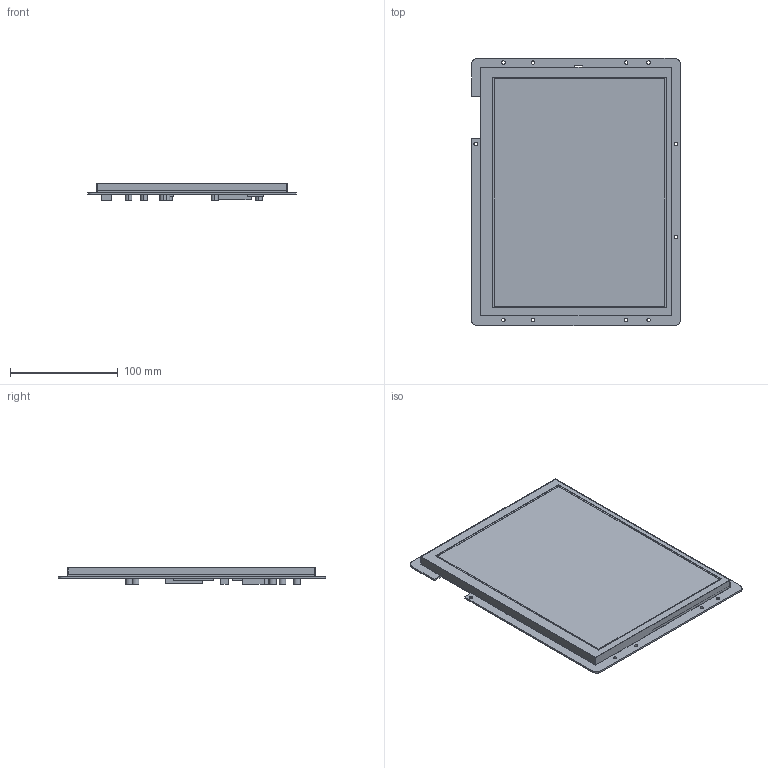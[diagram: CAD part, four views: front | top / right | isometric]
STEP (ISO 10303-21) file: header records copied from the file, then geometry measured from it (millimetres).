
FILE_DESCRIPTION((''),'2;1');
FILE_NAME('DMG10768K104-03WN','2022-02-17T',('Administrator'),(''),'PRO/ENGINEER BY PARAMETRIC TECHNOLOGY CORPORATION, 2011310','PRO/ENGINEER BY PARAMETRIC TECHNOLOGY CORPORATION, 2011310','');
FILE_SCHEMA(('CONFIG_CONTROL_DESIGN','SHAPE_APPEARANCE_LAYERS_GROUPS'));
Length unit declared in the file: millimetre
Products named in the file (1): DMG10768K104-03WN
Bounding box: 193.67 x 247.78 x 15.9 mm (x, y, z)
Volume: 320006.1 mm3; surface area: 196367.7 mm2
Topology: 1 solids, 1 shells, 190 faces, 572 edges, 364 vertices
Faces by surface type: plane 146, cylinder 44
Entity records: 7779 total; most frequent: ORIENTED_EDGE 1144, CARTESIAN_POINT 1126, DIRECTION 1040, EDGE_CURVE 572, VECTOR 484, LINE 484, VERTEX_POINT 364, AXIS2_PLACEMENT_3D 278
